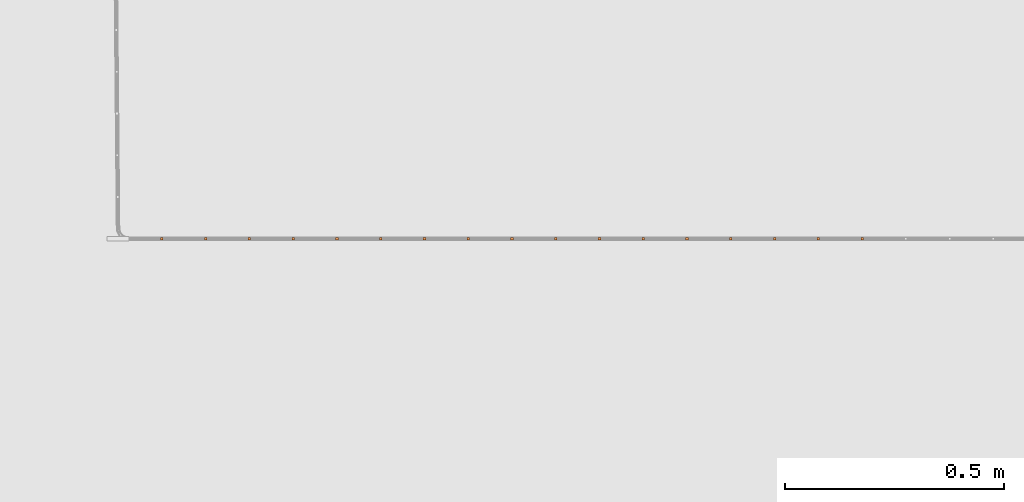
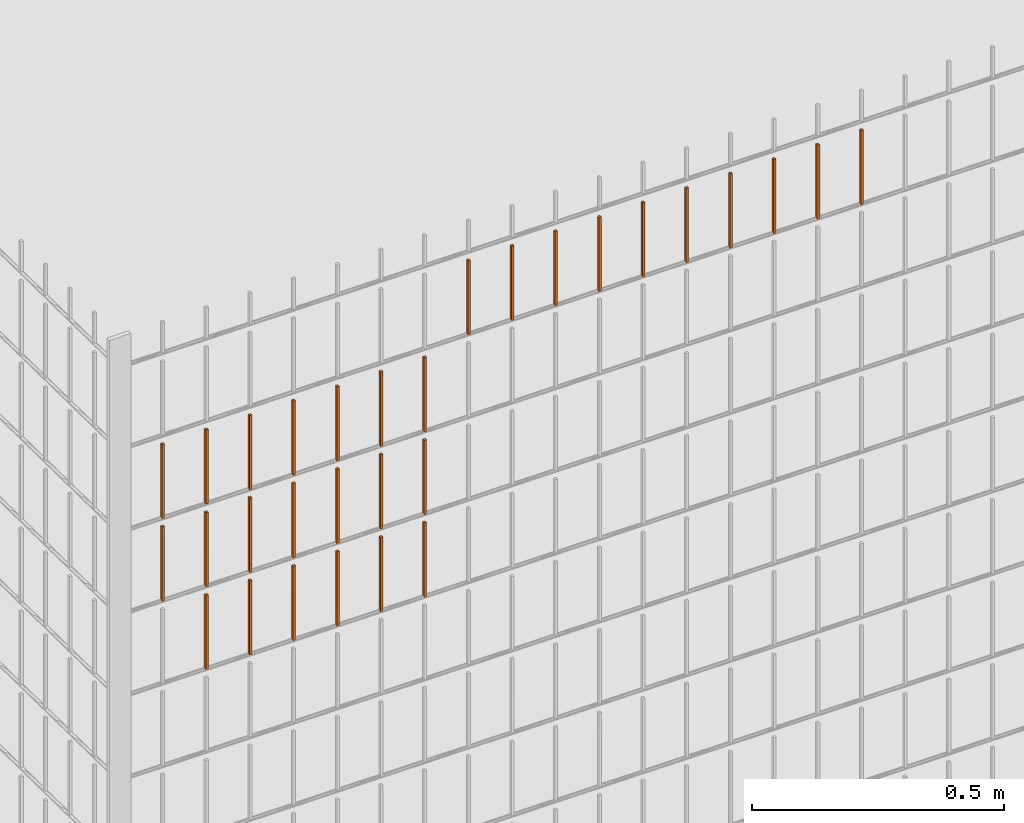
# One storey, part 238 of 1809: 30 proxies, 1 element without a shape of its own.
"""IFC2X3 building model written with IfcOpenShell, lengths in millimetres."""

from ifc_helpers import new_model, entity, si_unit, converted_unit, derived_unit, money_unit, direction, frame, origin_with_axes, place, context, subcontext, project, spatial, faceted_brep, source, transform, mapped, material, type_object, element, aggregate, save


model = new_model("IFC2X3")

# Units and contexts
model_context = context("Model", 3, precision=0.01, world=origin_with_axes(), true_north=direction((0.0, 1.0)))
body_context = subcontext(model_context, "Body", "Model", "MODEL_VIEW")
ifc_project = project(units=[si_unit("LENGTHUNIT", "METRE", prefix="MILLI"), si_unit("AREAUNIT", "SQUARE_METRE"), si_unit("VOLUMEUNIT", "CUBIC_METRE"), converted_unit("PLANEANGLEUNIT", "DEGREE", entity("IfcPlaneAngleMeasure", 0.0174532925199), si_unit("PLANEANGLEUNIT", "RADIAN"), dimensions=[0, 0, 0, 0, 0, 0, 0]), si_unit("SOLIDANGLEUNIT", "STERADIAN"), money_unit("EUR"), converted_unit("TIMEUNIT", "Year", entity("IfcTimeMeasure", 31556926.0), si_unit("TIMEUNIT", "SECOND"), dimensions=[0, 0, 1, 0, 0, 0, 0]), si_unit("MASSUNIT", "GRAM", prefix="KILO"), si_unit("THERMODYNAMICTEMPERATUREUNIT", "DEGREE_CELSIUS"), si_unit("LUMINOUSINTENSITYUNIT", "LUMEN"), si_unit("ENERGYUNIT", "JOULE", prefix="MEGA"), derived_unit("THERMALCONDUCTANCEUNIT", [(si_unit("POWERUNIT", "WATT"), 1), (si_unit("LENGTHUNIT", "METRE"), -1), (si_unit("THERMODYNAMICTEMPERATUREUNIT", "KELVIN"), -1)]), derived_unit("SPECIFICHEATCAPACITYUNIT", [(si_unit("ENERGYUNIT", "JOULE"), 1), (si_unit("MASSUNIT", "GRAM", prefix="KILO"), -1), (si_unit("THERMODYNAMICTEMPERATUREUNIT", "KELVIN"), -1)]), derived_unit("MASSDENSITYUNIT", [(si_unit("MASSUNIT", "GRAM", prefix="KILO"), 1), (si_unit("VOLUMEUNIT", "CUBIC_METRE"), -1)])], contexts=[model_context])

# Site, building, storey
site_placement = place(None, origin_with_axes())
site = spatial("IfcSite", under=ifc_project, at=site_placement, Name="Politse- ja Piirivalveameti ning Päästeameti ühishoone", CompositionType="ELEMENT")
building_placement = place(site_placement, origin_with_axes())
building = spatial("IfcBuilding", under=site, at=building_placement, Name="Politse- ja Piirivalveameti ning Päästeameti ühishoone", CompositionType="ELEMENT")
storey_placement = place(building_placement, origin_with_axes())
storey = spatial("IfcBuildingStorey", under=building, at=storey_placement, Name="Esimene korrus", CompositionType="ELEMENT", Elevation=0.0)

# Proxies
building_element_proxy_type_1 = type_object("IfcBuildingElementProxyType", Name="Railing Type", PredefinedType="NOTDEFINED")
proxy_1_placement = place(storey_placement, frame((-16775.8601056, 25156.7555964, 0.0), z_axis=(0.0, 0.0, 1.0), x_axis=(1.0, 0.0, 0.0)))
proxy_1 = element("IfcBuildingElementProxy", 1, at=proxy_1_placement, inside=storey, type_object=building_element_proxy_type_1, Name="KENNELI PIIRE")
ifc_material = material(Name="Teras - Konstruktsioon")
building_element_proxy_type_2 = type_object("IfcBuildingElementProxyType", Name="IfcBuildingElementProxy", PredefinedType="NOTDEFINED")
shared_shape_1 = source(origin_with_axes(), body_context, "Body", "Brep", [
    faceted_brep([(3.0, 3.0, 0.0), (-3.0, 3.0, 0.0), (-3.0, 3.0, 180.000012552), (3.0, 3.0, 180.000012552), (3.0, -3.0, 0.0), (-3.0, -3.0, 0.0), (-3.0, -3.0, 180.000012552), (3.0, -3.0, 180.000012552)], [[[0, 1, 2, 3]], [[0, 4, 5, 1]], [[1, 5, 6, 2]], [[3, 2, 6, 7]], [[4, 0, 3, 7]], [[5, 4, 7, 6]]]),
])
proxy_2_placement = place(proxy_1_placement, frame((-4782.26655065, -16068.8402798, 1803.99998745), z_axis=(0.0, 0.0, 1.0), x_axis=(1.0, 0.0, 0.0)))
proxy_2 = element("IfcBuildingElementProxy", 2, at=proxy_2_placement, type_object=building_element_proxy_type_2, material=ifc_material, Name="BALUSTER - 001", context=body_context, shape_type="MappedRepresentation", body=[
    mapped(shared_shape_1, transform((0.0, 0.0, 0.0), x_axis=(0.0, -1.0, 0.0), y_axis=(1.0, 0.0, 0.0), z_axis=(0.0, 0.0, 1.0))),
])
proxy_3_placement = place(proxy_1_placement, frame((-4682.26655065, -16068.8402798, 1803.99998745), z_axis=(0.0, 0.0, 1.0), x_axis=(1.0, 0.0, 0.0)))
proxy_3 = element("IfcBuildingElementProxy", 3, at=proxy_3_placement, type_object=building_element_proxy_type_2, material=ifc_material, Name="BALUSTER - 001", context=body_context, shape_type="MappedRepresentation", body=[
    mapped(shared_shape_1, transform((0.0, 0.0, 0.0), x_axis=(0.0, -1.0, 0.0), y_axis=(1.0, 0.0, 0.0), z_axis=(0.0, 0.0, 1.0))),
])
proxy_4_placement = place(proxy_1_placement, frame((-4582.26655065, -16068.8402798, 1803.99998745), z_axis=(0.0, 0.0, 1.0), x_axis=(1.0, 0.0, 0.0)))
proxy_4 = element("IfcBuildingElementProxy", 4, at=proxy_4_placement, type_object=building_element_proxy_type_2, material=ifc_material, Name="BALUSTER - 001", context=body_context, shape_type="MappedRepresentation", body=[
    mapped(shared_shape_1, transform((0.0, 0.0, 0.0), x_axis=(0.0, -1.0, 0.0), y_axis=(1.0, 0.0, 0.0), z_axis=(0.0, 0.0, 1.0))),
])
proxy_5_placement = place(proxy_1_placement, frame((-4482.26655065, -16068.8402798, 1803.99998745), z_axis=(0.0, 0.0, 1.0), x_axis=(1.0, 0.0, 0.0)))
proxy_5 = element("IfcBuildingElementProxy", 5, at=proxy_5_placement, type_object=building_element_proxy_type_2, material=ifc_material, Name="BALUSTER - 001", context=body_context, shape_type="MappedRepresentation", body=[
    mapped(shared_shape_1, transform((0.0, 0.0, 0.0), x_axis=(0.0, -1.0, 0.0), y_axis=(1.0, 0.0, 0.0), z_axis=(0.0, 0.0, 1.0))),
])
proxy_6_placement = place(proxy_1_placement, frame((-4382.26655065, -16068.8402798, 1803.99998745), z_axis=(0.0, 0.0, 1.0), x_axis=(1.0, 0.0, 0.0)))
proxy_6 = element("IfcBuildingElementProxy", 6, at=proxy_6_placement, type_object=building_element_proxy_type_2, material=ifc_material, Name="BALUSTER - 001", context=body_context, shape_type="MappedRepresentation", body=[
    mapped(shared_shape_1, transform((0.0, 0.0, 0.0), x_axis=(0.0, -1.0, 0.0), y_axis=(1.0, 0.0, 0.0), z_axis=(0.0, 0.0, 1.0))),
])
proxy_7_placement = place(proxy_1_placement, frame((-4282.26655065, -16068.8402798, 1803.99998745), z_axis=(0.0, 0.0, 1.0), x_axis=(1.0, 0.0, 0.0)))
proxy_7 = element("IfcBuildingElementProxy", 7, at=proxy_7_placement, type_object=building_element_proxy_type_2, material=ifc_material, Name="BALUSTER - 001", context=body_context, shape_type="MappedRepresentation", body=[
    mapped(shared_shape_1, transform((0.0, 0.0, 0.0), x_axis=(0.0, -1.0, 0.0), y_axis=(1.0, 0.0, 0.0), z_axis=(0.0, 0.0, 1.0))),
])
proxy_8_placement = place(proxy_1_placement, frame((-4182.26655065, -16068.8402798, 1803.99998745), z_axis=(0.0, 0.0, 1.0), x_axis=(1.0, 0.0, 0.0)))
proxy_8 = element("IfcBuildingElementProxy", 8, at=proxy_8_placement, type_object=building_element_proxy_type_2, material=ifc_material, Name="BALUSTER - 001", context=body_context, shape_type="MappedRepresentation", body=[
    mapped(shared_shape_1, transform((0.0, 0.0, 0.0), x_axis=(0.0, -1.0, 0.0), y_axis=(1.0, 0.0, 0.0), z_axis=(0.0, 0.0, 1.0))),
])
shared_shape_2 = source(origin_with_axes(), body_context, "Body", "Brep", [
    faceted_brep([(3.0, 3.0, 0.0), (-3.0, 3.0, 0.0), (-3.0, 3.0, 180.000012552), (3.0, 3.0, 180.000012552), (3.0, -3.0, 0.0), (-3.0, -3.0, 0.0), (-3.0, -3.0, 180.000012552), (3.0, -3.0, 180.000012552)], [[[0, 1, 2, 3]], [[0, 4, 5, 1]], [[1, 5, 6, 2]], [[3, 2, 6, 7]], [[4, 0, 3, 7]], [[5, 4, 7, 6]]]),
])
proxy_9_placement = place(proxy_1_placement, frame((-4782.26655065, -16068.8402798, 2003.99998745), z_axis=(0.0, 0.0, 1.0), x_axis=(1.0, 0.0, 0.0)))
proxy_9 = element("IfcBuildingElementProxy", 9, at=proxy_9_placement, type_object=building_element_proxy_type_2, material=ifc_material, Name="BALUSTER - 001", context=body_context, shape_type="MappedRepresentation", body=[
    mapped(shared_shape_2, transform((0.0, 0.0, 0.0), x_axis=(0.0, -1.0, 0.0), y_axis=(1.0, 0.0, 0.0), z_axis=(0.0, 0.0, 1.0))),
])
proxy_10_placement = place(proxy_1_placement, frame((-4682.26655065, -16068.8402798, 2003.99998745), z_axis=(0.0, 0.0, 1.0), x_axis=(1.0, 0.0, 0.0)))
proxy_10 = element("IfcBuildingElementProxy", 10, at=proxy_10_placement, type_object=building_element_proxy_type_2, material=ifc_material, Name="BALUSTER - 001", context=body_context, shape_type="MappedRepresentation", body=[
    mapped(shared_shape_2, transform((0.0, 0.0, 0.0), x_axis=(0.0, -1.0, 0.0), y_axis=(1.0, 0.0, 0.0), z_axis=(0.0, 0.0, 1.0))),
])
proxy_11_placement = place(proxy_1_placement, frame((-4582.26655065, -16068.8402798, 2003.99998745), z_axis=(0.0, 0.0, 1.0), x_axis=(1.0, 0.0, 0.0)))
proxy_11 = element("IfcBuildingElementProxy", 11, at=proxy_11_placement, type_object=building_element_proxy_type_2, material=ifc_material, Name="BALUSTER - 001", context=body_context, shape_type="MappedRepresentation", body=[
    mapped(shared_shape_2, transform((0.0, 0.0, 0.0), x_axis=(0.0, -1.0, 0.0), y_axis=(1.0, 0.0, 0.0), z_axis=(0.0, 0.0, 1.0))),
])
proxy_12_placement = place(proxy_1_placement, frame((-4482.26655065, -16068.8402798, 2003.99998745), z_axis=(0.0, 0.0, 1.0), x_axis=(1.0, 0.0, 0.0)))
proxy_12 = element("IfcBuildingElementProxy", 12, at=proxy_12_placement, type_object=building_element_proxy_type_2, material=ifc_material, Name="BALUSTER - 001", context=body_context, shape_type="MappedRepresentation", body=[
    mapped(shared_shape_2, transform((0.0, 0.0, 0.0), x_axis=(0.0, -1.0, 0.0), y_axis=(1.0, 0.0, 0.0), z_axis=(0.0, 0.0, 1.0))),
])
proxy_13_placement = place(proxy_1_placement, frame((-4382.26655065, -16068.8402798, 2003.99998745), z_axis=(0.0, 0.0, 1.0), x_axis=(1.0, 0.0, 0.0)))
proxy_13 = element("IfcBuildingElementProxy", 13, at=proxy_13_placement, type_object=building_element_proxy_type_2, material=ifc_material, Name="BALUSTER - 001", context=body_context, shape_type="MappedRepresentation", body=[
    mapped(shared_shape_2, transform((0.0, 0.0, 0.0), x_axis=(0.0, -1.0, 0.0), y_axis=(1.0, 0.0, 0.0), z_axis=(0.0, 0.0, 1.0))),
])
proxy_14_placement = place(proxy_1_placement, frame((-4282.26655065, -16068.8402798, 2003.99998745), z_axis=(0.0, 0.0, 1.0), x_axis=(1.0, 0.0, 0.0)))
proxy_14 = element("IfcBuildingElementProxy", 14, at=proxy_14_placement, type_object=building_element_proxy_type_2, material=ifc_material, Name="BALUSTER - 001", context=body_context, shape_type="MappedRepresentation", body=[
    mapped(shared_shape_2, transform((0.0, 0.0, 0.0), x_axis=(0.0, -1.0, 0.0), y_axis=(1.0, 0.0, 0.0), z_axis=(0.0, 0.0, 1.0))),
])
proxy_15_placement = place(proxy_1_placement, frame((-4182.26655065, -16068.8402798, 2003.99998745), z_axis=(0.0, 0.0, 1.0), x_axis=(1.0, 0.0, 0.0)))
proxy_15 = element("IfcBuildingElementProxy", 15, at=proxy_15_placement, type_object=building_element_proxy_type_2, material=ifc_material, Name="BALUSTER - 001", context=body_context, shape_type="MappedRepresentation", body=[
    mapped(shared_shape_2, transform((0.0, 0.0, 0.0), x_axis=(0.0, -1.0, 0.0), y_axis=(1.0, 0.0, 0.0), z_axis=(0.0, 0.0, 1.0))),
])
shared_shape_3 = source(origin_with_axes(), body_context, "Body", "Brep", [
    faceted_brep([(3.0, 3.0, 0.0), (-3.0, 3.0, 0.0), (-3.0, 3.0, 180.000012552), (3.0, 3.0, 180.000012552), (3.0, -3.0, 0.0), (-3.0, -3.0, 0.0), (-3.0, -3.0, 180.000012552), (3.0, -3.0, 180.000012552)], [[[0, 1, 2, 3]], [[0, 4, 5, 1]], [[1, 5, 6, 2]], [[3, 2, 6, 7]], [[4, 0, 3, 7]], [[5, 4, 7, 6]]]),
])
proxy_16_placement = place(proxy_1_placement, frame((-4082.26655065, -16068.8402798, 2203.99998745), z_axis=(0.0, 0.0, 1.0), x_axis=(1.0, 0.0, 0.0)))
proxy_16 = element("IfcBuildingElementProxy", 16, at=proxy_16_placement, type_object=building_element_proxy_type_2, material=ifc_material, Name="BALUSTER - 001", context=body_context, shape_type="MappedRepresentation", body=[
    mapped(shared_shape_3, transform((0.0, 0.0, 0.0), x_axis=(0.0, -1.0, 0.0), y_axis=(1.0, 0.0, 0.0), z_axis=(0.0, 0.0, 1.0))),
])
proxy_17_placement = place(proxy_1_placement, frame((-3982.26655065, -16068.8402798, 2203.99998745), z_axis=(0.0, 0.0, 1.0), x_axis=(1.0, 0.0, 0.0)))
proxy_17 = element("IfcBuildingElementProxy", 17, at=proxy_17_placement, type_object=building_element_proxy_type_2, material=ifc_material, Name="BALUSTER - 001", context=body_context, shape_type="MappedRepresentation", body=[
    mapped(shared_shape_3, transform((0.0, 0.0, 0.0), x_axis=(0.0, -1.0, 0.0), y_axis=(1.0, 0.0, 0.0), z_axis=(0.0, 0.0, 1.0))),
])
proxy_18_placement = place(proxy_1_placement, frame((-3882.26655065, -16068.8402798, 2203.99998745), z_axis=(0.0, 0.0, 1.0), x_axis=(1.0, 0.0, 0.0)))
proxy_18 = element("IfcBuildingElementProxy", 18, at=proxy_18_placement, type_object=building_element_proxy_type_2, material=ifc_material, Name="BALUSTER - 001", context=body_context, shape_type="MappedRepresentation", body=[
    mapped(shared_shape_3, transform((0.0, 0.0, 0.0), x_axis=(0.0, -1.0, 0.0), y_axis=(1.0, 0.0, 0.0), z_axis=(0.0, 0.0, 1.0))),
])
proxy_19_placement = place(proxy_1_placement, frame((-3782.26655065, -16068.8402798, 2203.99998745), z_axis=(0.0, 0.0, 1.0), x_axis=(1.0, 0.0, 0.0)))
proxy_19 = element("IfcBuildingElementProxy", 19, at=proxy_19_placement, type_object=building_element_proxy_type_2, material=ifc_material, Name="BALUSTER - 001", context=body_context, shape_type="MappedRepresentation", body=[
    mapped(shared_shape_3, transform((0.0, 0.0, 0.0), x_axis=(0.0, -1.0, 0.0), y_axis=(1.0, 0.0, 0.0), z_axis=(0.0, 0.0, 1.0))),
])
proxy_20_placement = place(proxy_1_placement, frame((-3682.26655065, -16068.8402798, 2203.99998745), z_axis=(0.0, 0.0, 1.0), x_axis=(1.0, 0.0, 0.0)))
proxy_20 = element("IfcBuildingElementProxy", 20, at=proxy_20_placement, type_object=building_element_proxy_type_2, material=ifc_material, Name="BALUSTER - 001", context=body_context, shape_type="MappedRepresentation", body=[
    mapped(shared_shape_3, transform((0.0, 0.0, 0.0), x_axis=(0.0, -1.0, 0.0), y_axis=(1.0, 0.0, 0.0), z_axis=(0.0, 0.0, 1.0))),
])
proxy_21_placement = place(proxy_1_placement, frame((-3582.26655065, -16068.8402798, 2203.99998745), z_axis=(0.0, 0.0, 1.0), x_axis=(1.0, 0.0, 0.0)))
proxy_21 = element("IfcBuildingElementProxy", 21, at=proxy_21_placement, type_object=building_element_proxy_type_2, material=ifc_material, Name="BALUSTER - 001", context=body_context, shape_type="MappedRepresentation", body=[
    mapped(shared_shape_3, transform((0.0, 0.0, 0.0), x_axis=(0.0, -1.0, 0.0), y_axis=(1.0, 0.0, 0.0), z_axis=(0.0, 0.0, 1.0))),
])
proxy_22_placement = place(proxy_1_placement, frame((-3482.26655065, -16068.8402798, 2203.99998745), z_axis=(0.0, 0.0, 1.0), x_axis=(1.0, 0.0, 0.0)))
proxy_22 = element("IfcBuildingElementProxy", 22, at=proxy_22_placement, type_object=building_element_proxy_type_2, material=ifc_material, Name="BALUSTER - 001", context=body_context, shape_type="MappedRepresentation", body=[
    mapped(shared_shape_3, transform((0.0, 0.0, 0.0), x_axis=(0.0, -1.0, 0.0), y_axis=(1.0, 0.0, 0.0), z_axis=(0.0, 0.0, 1.0))),
])
proxy_23_placement = place(proxy_1_placement, frame((-3382.26655065, -16068.8402798, 2203.99998745), z_axis=(0.0, 0.0, 1.0), x_axis=(1.0, 0.0, 0.0)))
proxy_23 = element("IfcBuildingElementProxy", 23, at=proxy_23_placement, type_object=building_element_proxy_type_2, material=ifc_material, Name="BALUSTER - 001", context=body_context, shape_type="MappedRepresentation", body=[
    mapped(shared_shape_3, transform((0.0, 0.0, 0.0), x_axis=(0.0, -1.0, 0.0), y_axis=(1.0, 0.0, 0.0), z_axis=(0.0, 0.0, 1.0))),
])
proxy_24_placement = place(proxy_1_placement, frame((-3282.26655065, -16068.8402798, 2203.99998745), z_axis=(0.0, 0.0, 1.0), x_axis=(1.0, 0.0, 0.0)))
proxy_24 = element("IfcBuildingElementProxy", 24, at=proxy_24_placement, type_object=building_element_proxy_type_2, material=ifc_material, Name="BALUSTER - 001", context=body_context, shape_type="MappedRepresentation", body=[
    mapped(shared_shape_3, transform((0.0, 0.0, 0.0), x_axis=(0.0, -1.0, 0.0), y_axis=(1.0, 0.0, 0.0), z_axis=(0.0, 0.0, 1.0))),
])
proxy_25_placement = place(proxy_1_placement, frame((-3182.26655065, -16068.8402798, 2203.99998745), z_axis=(0.0, 0.0, 1.0), x_axis=(1.0, 0.0, 0.0)))
proxy_25 = element("IfcBuildingElementProxy", 25, at=proxy_25_placement, type_object=building_element_proxy_type_2, material=ifc_material, Name="BALUSTER - 001", context=body_context, shape_type="MappedRepresentation", body=[
    mapped(shared_shape_3, transform((0.0, 0.0, 0.0), x_axis=(0.0, -1.0, 0.0), y_axis=(1.0, 0.0, 0.0), z_axis=(0.0, 0.0, 1.0))),
])
shared_shape_4 = source(origin_with_axes(), body_context, "Body", "Brep", [
    faceted_brep([(3.0, 3.0, 0.0), (-3.0, 3.0, 0.0), (-3.0, 3.0, 180.000012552), (3.0, 3.0, 180.000012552), (3.0, -3.0, 0.0), (-3.0, -3.0, 0.0), (-3.0, -3.0, 180.000012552), (3.0, -3.0, 180.000012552)], [[[0, 1, 2, 3]], [[0, 4, 5, 1]], [[1, 5, 6, 2]], [[3, 2, 6, 7]], [[4, 0, 3, 7]], [[5, 4, 7, 6]]]),
])
proxy_26_placement = place(proxy_1_placement, frame((-4682.26655065, -16068.8402798, 1603.99998745), z_axis=(0.0, 0.0, 1.0), x_axis=(1.0, 0.0, 0.0)))
proxy_26 = element("IfcBuildingElementProxy", 26, at=proxy_26_placement, type_object=building_element_proxy_type_2, material=ifc_material, Name="BALUSTER - 001", context=body_context, shape_type="MappedRepresentation", body=[
    mapped(shared_shape_4, transform((0.0, 0.0, 0.0), x_axis=(0.0, -1.0, 0.0), y_axis=(1.0, 0.0, 0.0), z_axis=(0.0, 0.0, 1.0))),
])
proxy_27_placement = place(proxy_1_placement, frame((-4582.26655065, -16068.8402798, 1603.99998745), z_axis=(0.0, 0.0, 1.0), x_axis=(1.0, 0.0, 0.0)))
proxy_27 = element("IfcBuildingElementProxy", 27, at=proxy_27_placement, type_object=building_element_proxy_type_2, material=ifc_material, Name="BALUSTER - 001", context=body_context, shape_type="MappedRepresentation", body=[
    mapped(shared_shape_4, transform((0.0, 0.0, 0.0), x_axis=(0.0, -1.0, 0.0), y_axis=(1.0, 0.0, 0.0), z_axis=(0.0, 0.0, 1.0))),
])
proxy_28_placement = place(proxy_1_placement, frame((-4482.26655065, -16068.8402798, 1603.99998745), z_axis=(0.0, 0.0, 1.0), x_axis=(1.0, 0.0, 0.0)))
proxy_28 = element("IfcBuildingElementProxy", 28, at=proxy_28_placement, type_object=building_element_proxy_type_2, material=ifc_material, Name="BALUSTER - 001", context=body_context, shape_type="MappedRepresentation", body=[
    mapped(shared_shape_4, transform((0.0, 0.0, 0.0), x_axis=(0.0, -1.0, 0.0), y_axis=(1.0, 0.0, 0.0), z_axis=(0.0, 0.0, 1.0))),
])
proxy_29_placement = place(proxy_1_placement, frame((-4382.26655065, -16068.8402798, 1603.99998745), z_axis=(0.0, 0.0, 1.0), x_axis=(1.0, 0.0, 0.0)))
proxy_29 = element("IfcBuildingElementProxy", 29, at=proxy_29_placement, type_object=building_element_proxy_type_2, material=ifc_material, Name="BALUSTER - 001", context=body_context, shape_type="MappedRepresentation", body=[
    mapped(shared_shape_4, transform((0.0, 0.0, 0.0), x_axis=(0.0, -1.0, 0.0), y_axis=(1.0, 0.0, 0.0), z_axis=(0.0, 0.0, 1.0))),
])
proxy_30_placement = place(proxy_1_placement, frame((-4282.26655065, -16068.8402798, 1603.99998745), z_axis=(0.0, 0.0, 1.0), x_axis=(1.0, 0.0, 0.0)))
proxy_30 = element("IfcBuildingElementProxy", 30, at=proxy_30_placement, type_object=building_element_proxy_type_2, material=ifc_material, Name="BALUSTER - 001", context=body_context, shape_type="MappedRepresentation", body=[
    mapped(shared_shape_4, transform((0.0, 0.0, 0.0), x_axis=(0.0, -1.0, 0.0), y_axis=(1.0, 0.0, 0.0), z_axis=(0.0, 0.0, 1.0))),
])
proxy_31_placement = place(proxy_1_placement, frame((-4182.26655065, -16068.8402798, 1603.99998745), z_axis=(0.0, 0.0, 1.0), x_axis=(1.0, 0.0, 0.0)))
proxy_31 = element("IfcBuildingElementProxy", 31, at=proxy_31_placement, type_object=building_element_proxy_type_2, material=ifc_material, Name="BALUSTER - 001", context=body_context, shape_type="MappedRepresentation", body=[
    mapped(shared_shape_4, transform((0.0, 0.0, 0.0), x_axis=(0.0, -1.0, 0.0), y_axis=(1.0, 0.0, 0.0), z_axis=(0.0, 0.0, 1.0))),
])
aggregate(proxy_1, [proxy_16, proxy_17, proxy_18, proxy_19, proxy_20, proxy_21, proxy_22, proxy_23, proxy_24, proxy_25, proxy_26, proxy_27, proxy_28, proxy_29, proxy_30, proxy_31, proxy_2, proxy_3, proxy_4, proxy_5, proxy_6, proxy_7, proxy_8, proxy_9, proxy_10, proxy_11, proxy_12, proxy_13, proxy_14, proxy_15])

save(model, "model.ifc")
